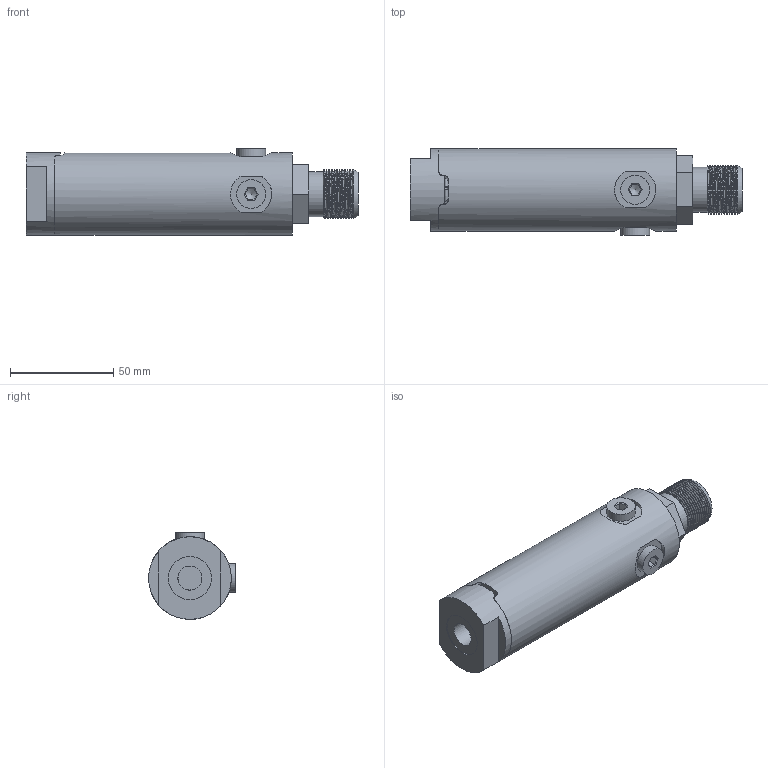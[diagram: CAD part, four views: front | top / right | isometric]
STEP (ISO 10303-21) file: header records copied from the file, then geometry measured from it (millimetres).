
FILE_DESCRIPTION(/* description */ ('Assembly Subsea Pressure Sensor 4-20mA 400Bar','CAx-IF Rec.Pracs.---Representation and Presentation of Product Manufacturing Information (PMI)---4.0---2014-10-13'),/* implementation_level */ '2;1');
FILE_NAME(/* name */ '109171 v3.step',/* time_stamp */ '2024-12-18T09:59:15+01:00',/* author */ (''),/* organization */ (''),/* preprocessor_version */ 'ST-DEVELOPER v20',/* originating_system */ 'Autodesk Translation Framework v13.20.0.188',/* authorisation */ '');
FILE_SCHEMA (('AP242_MANAGED_MODEL_BASED_3D_ENGINEERING_MIM_LF { 1 0 10303 442 1 1 4 }'));
Length unit declared in the file: millimetre
Products named in the file (6): 109171; 110193; 101835; 116040; 118503; 117769
Assembly tree (6 placements, depth 2):
  109171
    110193
    101835
    116040
    118503  x2
    117769
Bounding box: 160.75 x 42 x 42 mm (x, y, z)
Volume: 124641.4 mm3; surface area: 42452.1 mm2
Topology: 6 solids, 6 shells, 389 faces, 971 edges, 633 vertices
Faces by surface type: plane 152, bspline 92, cylinder 84, cone 39, torus 22
Full cylindrical faces by diameter (mm): 1.3 x8, 8.3 x2, 8.707 x2, 9.73 x12, 11.619 x1, 11.668 x2, 12 x2, 14 x2, 14.453 x1, 15.763 x1, 18.868 x1, 21 x1, 21.812 x1, 22.301 x10, 23.711 x11, 26 x1, 27.4 x2, 30 x4, 31 x2, 40 x2
Entity records: 14337 total; most frequent: CARTESIAN_POINT 6319, ORIENTED_EDGE 1716, DIRECTION 1321, EDGE_CURVE 858, VERTEX_POINT 565, AXIS2_PLACEMENT_3D 454, LINE 413, VECTOR 413
